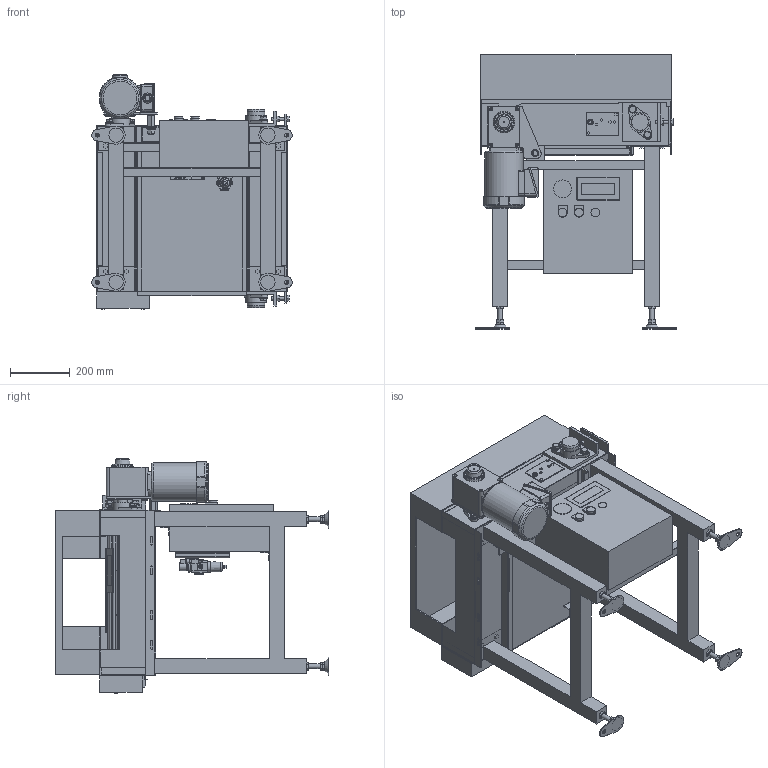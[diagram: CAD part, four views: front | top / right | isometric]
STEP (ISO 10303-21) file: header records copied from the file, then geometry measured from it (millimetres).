
FILE_DESCRIPTION (( 'STEP AP214' ), '1' );
FILE_NAME ('SLS-H-2-150-150-R.STEP', '2023-04-20T04:38:56', ( '' ), ( '' ), 'SwSTEP 2.0', 'SolidWorks 2017', '' );
FILE_SCHEMA (( 'AUTOMOTIVE_DESIGN' ));
Length unit declared in the file: millimetre
Products named in the file (1): SLS-H-2-150-150-R
Bounding box: 674 x 920.6 x 789.5 mm (x, y, z)
Volume: 43273333.1 mm3; surface area: 6745877.5 mm2
Topology: 81 solids, 81 shells, 2796 faces, 7308 edges, 4744 vertices
Faces by surface type: plane 2166, cylinder 458, cone 142, bspline 15, torus 11, sphere 4
Full cylindrical faces by diameter (mm): 2.459 x2, 3.2 x4, 4.386 x2, 6 x3, 6.5 x2, 6.8 x3, 7 x4, 7.9 x4, 8 x6, 8.376 x4, 8.5 x6, 9 x1, 9.7 x3, 9.9 x1, 10 x1, 10.5 x4, 11 x5, 11.8 x4, 12 x2, 12.3 x1, 13 x8, 13.8 x1, 14 x10, 15 x1, 15.4 x1, 16 x16, 18 x1, 19 x1, 20 x1, 21 x6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
Entity records: 116749 total; most frequent: CARTESIAN_POINT 16897, ORIENTED_EDGE 14082, DIRECTION 13502, EDGE_CURVE 7041, LINE 5616, VECTOR 5616, VERTEX_POINT 4684, AXIS2_PLACEMENT_3D 3943
